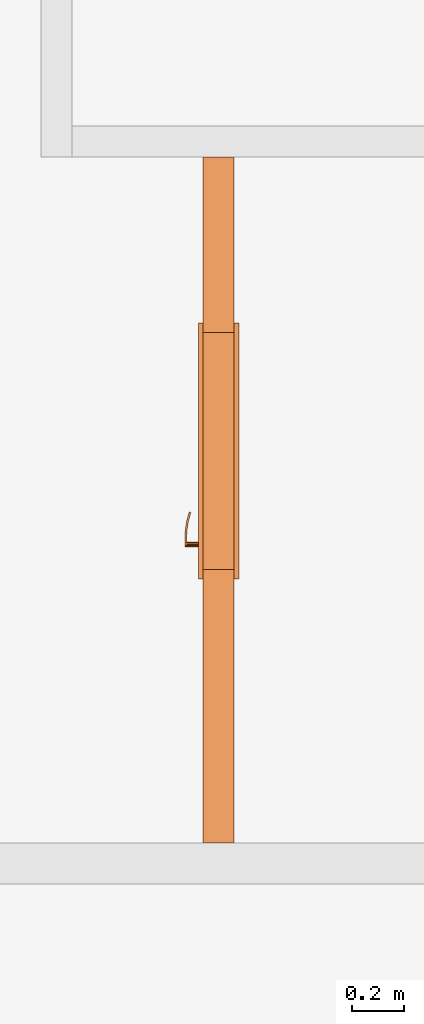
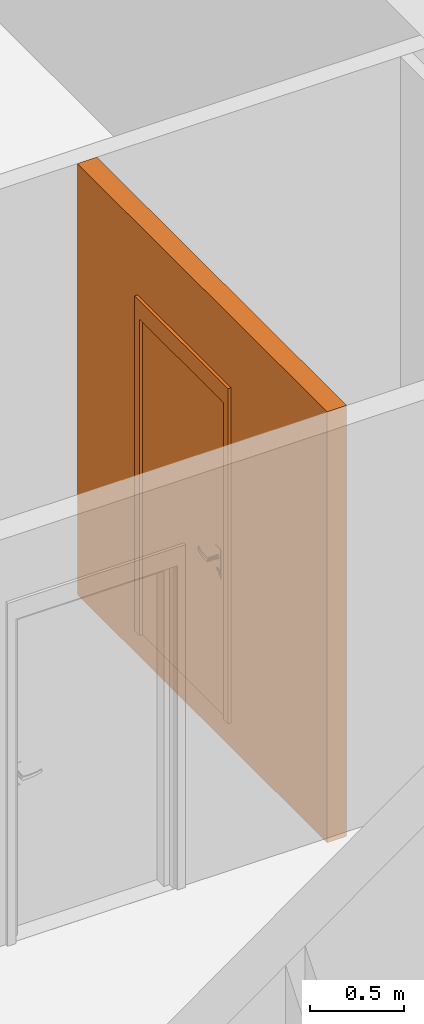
# One storey, part 16 of 61: 2 proxies, 1 opening.
"""IFC2X3 building model written with IfcOpenShell, lengths in millimetres."""

from ifc_helpers import new_model, entity, si_unit, converted_unit, derived_unit, money_unit, direction, frame, origin_with_axes, origin_2d_with_axis, place, context, subcontext, project, spatial, rectangle, extrude, open_shell, faceted_brep, surface_model, source, transform, mapped, material, type_object, element, fill, save


model = new_model("IFC2X3")

# Units and contexts
model_context = context("Model", 3, precision=0.01, world=origin_with_axes(), true_north=direction((0.34421633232, 0.938890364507)))
body_context = subcontext(model_context, "Body", "Model", "MODEL_VIEW")
ifc_project = project(units=[si_unit("LENGTHUNIT", "METRE", prefix="MILLI"), si_unit("AREAUNIT", "SQUARE_METRE"), si_unit("VOLUMEUNIT", "CUBIC_METRE"), converted_unit("PLANEANGLEUNIT", "DEGREE", entity("IfcPlaneAngleMeasure", 0.0174532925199), si_unit("PLANEANGLEUNIT", "RADIAN"), dimensions=[0, 0, 0, 0, 0, 0, 0]), si_unit("SOLIDANGLEUNIT", "STERADIAN"), money_unit("USD"), converted_unit("TIMEUNIT", "Year", entity("IfcTimeMeasure", 31556926.0), si_unit("TIMEUNIT", "SECOND"), dimensions=[0, 0, 1, 0, 0, 0, 0]), si_unit("MASSUNIT", "GRAM", prefix="KILO"), si_unit("THERMODYNAMICTEMPERATUREUNIT", "DEGREE_CELSIUS"), si_unit("LUMINOUSINTENSITYUNIT", "LUMEN"), si_unit("ENERGYUNIT", "JOULE", prefix="MEGA"), derived_unit("THERMALCONDUCTANCEUNIT", [(si_unit("POWERUNIT", "WATT"), 1), (si_unit("LENGTHUNIT", "METRE"), -1), (si_unit("THERMODYNAMICTEMPERATUREUNIT", "KELVIN"), -1)]), derived_unit("SPECIFICHEATCAPACITYUNIT", [(si_unit("ENERGYUNIT", "JOULE"), 1), (si_unit("MASSUNIT", "GRAM", prefix="KILO"), -1), (si_unit("THERMODYNAMICTEMPERATUREUNIT", "KELVIN"), -1)]), derived_unit("MASSDENSITYUNIT", [(si_unit("MASSUNIT", "GRAM", prefix="KILO"), 1), (si_unit("VOLUMEUNIT", "CUBIC_METRE"), -1)])], contexts=[model_context])

# Site, building, storey
site_placement = place(None, origin_with_axes())
site = spatial("IfcSite", under=ifc_project, at=site_placement, Name="USTRONIE MORSKIE", CompositionType="ELEMENT")
building_placement = place(site_placement, origin_with_axes())
building = spatial("IfcBuilding", under=site, at=building_placement, Name="Budynek", CompositionType="ELEMENT")
storey_placement = place(building_placement, frame((0.0, 0.0, 13000.0), z_axis=(0.0, 0.0, 1.0), x_axis=(1.0, 0.0, 0.0)))
storey = spatial("IfcBuildingStorey", under=building, at=storey_placement, Name="PIĘTRO 4", CompositionType="ELEMENT", Elevation=13000.0)

# Proxies, opening
ifc_material = material(Name="Bloczki silikatowe")
building_element_proxy_type_1 = type_object("IfcBuildingElementProxyType", Name="Bloczki silikatowe 120", PredefinedType="NOTDEFINED")
proxy_1_placement = place(storey_placement, frame((371097.920919, 739651.199937, -160.0), z_axis=(0.0, 0.0, 1.0), x_axis=(0.0, -1.0, 0.0)))
proxy_1 = element("IfcBuildingElementProxy", 1, at=proxy_1_placement, inside=storey, type_object=building_element_proxy_type_1, material=ifc_material, Name="SW-04", context=body_context, shape_type="Brep", body=[
    faceted_brep([(2720.00090117, -60.0, 2800.0), (2720.00090117, 60.0, 2800.0), (59.9999999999, 60.0, 2800.0), (59.9999999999, -60.0, 2800.0), (2720.00090117, -60.0, 0.0), (2720.00090117, 60.0, 0.0), (59.9999999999, 60.0, 0.0), (59.9999999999, -60.0, 0.0)], [[[0, 1, 2, 3]], [[1, 0, 4, 5]], [[1, 5, 6, 2]], [[7, 3, 2, 6]], [[4, 0, 3, 7]], [[5, 4, 7, 6]]]),
])
opening_placement = place(proxy_1_placement, frame((1200.00090117, 0.0, 160.0), z_axis=(0.0, 0.0, 1.0), x_axis=(1.0, 0.0, 0.0)))
opening = element("IfcOpeningElement", 2, at=opening_placement, cuts=proxy_1, Name="Dw.4", context=body_context, shape_type="SweptSolid", body=[
    extrude(rectangle(XDim=920.0, YDim=2070.0, at=origin_2d_with_axis()), frame((0.0, 120.0, 1035.0), z_axis=(0.0, -1.0, 0.0), x_axis=(-1.0, 0.0, 0.0)), (0.0, 0.0, 1.0), 360.0),
    extrude(rectangle(XDim=994.0, YDim=2177.0, at=origin_2d_with_axis()), frame((0.0, 60.0, 1088.5), z_axis=(0.0, -1.0, 0.0), x_axis=(-1.0, 0.0, 0.0)), (0.0, 0.0, -1.0), 120.0),
    extrude(rectangle(XDim=994.0, YDim=2177.0, at=origin_2d_with_axis()), frame((0.0, -60.0, 1088.5), z_axis=(0.0, 1.0, 0.0), x_axis=(-1.0, 0.0, 0.0)), (0.0, 0.0, -1.0), 120.0),
])
building_element_proxy_type_2 = type_object("IfcBuildingElementProxyType", Name="Drzwi 23", PredefinedType="NOTDEFINED")
shared_shape = source(origin_with_axes(), body_context, "Body", "SurfaceModel", [
    faceted_brep([(-460.0, -115.0, 0.0), (-435.0, -115.0, 0.0), (-435.0, -120.0, 0.0), (-460.0, -120.0, 0.0), (-460.0, -115.0, 2070.0), (-435.0, -115.0, 2045.0), (-435.0, -120.0, 2045.0), (-460.0, -120.0, 2070.0)], [[[0, 1, 2, 3]], [[0, 4, 5, 1]], [[1, 5, 6, 2]], [[3, 2, 6, 7]], [[4, 0, 3, 7]], [[5, 4, 7, 6]]]),
    faceted_brep([(460.0, -115.0, 2070.0), (435.0, -115.0, 2045.0), (435.0, -120.0, 2045.0), (460.0, -120.0, 2070.0), (460.0, -115.0, 0.0), (435.0, -115.0, 0.0), (435.0, -120.0, 0.0), (460.0, -120.0, 0.0)], [[[0, 1, 2, 3]], [[0, 4, 5, 1]], [[1, 5, 6, 2]], [[3, 2, 6, 7]], [[4, 0, 3, 7]], [[5, 4, 7, 6]]]),
    faceted_brep([(-435.0, -115.0, 2045.0), (435.0, -115.0, 2045.0), (435.0, -120.0, 2045.0), (-435.0, -120.0, 2045.0), (-460.0, -115.0, 2070.0), (460.0, -115.0, 2070.0), (460.0, -120.0, 2070.0), (-460.0, -120.0, 2070.0)], [[[0, 1, 2, 3]], [[0, 4, 5, 1]], [[1, 5, 6, 2]], [[3, 2, 6, 7]], [[4, 0, 3, 7]], [[5, 4, 7, 6]]]),
    faceted_brep([(-497.0, -139.0, 0.0), (-497.0, -120.0, 0.0), (-447.0, -120.0, 0.0), (-447.0, -139.0, 0.0), (-497.0, -139.0, 2177.0), (-497.0, -120.0, 2177.0), (-447.0, -120.0, 2057.0), (-447.0, -139.0, 2057.0)], [[[0, 1, 2, 3]], [[4, 5, 1, 0]], [[1, 5, 6, 2]], [[3, 2, 6, 7]], [[0, 3, 7, 4]], [[7, 6, 5, 4]]]),
    faceted_brep([(497.0, -139.0, 2177.0), (497.0, -120.0, 2177.0), (447.0, -120.0, 2057.0), (447.0, -139.0, 2057.0), (497.0, -139.0, 0.0), (497.0, -120.0, 0.0), (447.0, -120.0, 0.0), (447.0, -139.0, 0.0)], [[[0, 1, 2, 3]], [[4, 5, 1, 0]], [[1, 5, 6, 2]], [[3, 2, 6, 7]], [[0, 3, 7, 4]], [[7, 6, 5, 4]]]),
    faceted_brep([(-497.0, -139.0, 2177.0), (-497.0, -120.0, 2177.0), (-447.0, -120.0, 2057.0), (-447.0, -139.0, 2057.0), (497.0, -139.0, 2177.0), (497.0, -120.0, 2177.0), (447.0, -120.0, 2057.0), (447.0, -139.0, 2057.0)], [[[0, 1, 2, 3]], [[4, 5, 1, 0]], [[1, 5, 6, 2]], [[3, 2, 6, 7]], [[0, 3, 7, 4]], [[7, 6, 5, 4]]]),
    faceted_brep([(-497.0, 19.0, 0.0), (-447.0, 19.0, 0.0), (-447.0, 0.0, 0.0), (-497.0, 0.0, 0.0), (-497.0, 19.0, 2177.0), (-447.0, 19.0, 2057.0), (-447.0, 0.0, 2057.0), (-497.0, 0.0, 2177.0)], [[[0, 1, 2, 3]], [[0, 4, 5, 1]], [[1, 5, 6, 2]], [[3, 2, 6, 7]], [[4, 0, 3, 7]], [[5, 4, 7, 6]]]),
    faceted_brep([(497.0, 19.0, 2177.0), (447.0, 19.0, 2057.0), (447.0, 0.0, 2057.0), (497.0, 0.0, 2177.0), (497.0, 19.0, 0.0), (447.0, 19.0, 0.0), (447.0, 0.0, 0.0), (497.0, 0.0, 0.0)], [[[0, 1, 2, 3]], [[0, 4, 5, 1]], [[1, 5, 6, 2]], [[3, 2, 6, 7]], [[4, 0, 3, 7]], [[5, 4, 7, 6]]]),
    faceted_brep([(-497.0, 19.0, 2177.0), (-447.0, 19.0, 2057.0), (-447.0, 0.0, 2057.0), (-497.0, 0.0, 2177.0), (497.0, 19.0, 2177.0), (447.0, 19.0, 2057.0), (447.0, 0.0, 2057.0), (497.0, 0.0, 2177.0)], [[[0, 1, 2, 3]], [[0, 4, 5, 1]], [[1, 5, 6, 2]], [[3, 2, 6, 7]], [[4, 0, 3, 7]], [[5, 4, 7, 6]]]),
    faceted_brep([(-400.0, -40.0, 0.0), (-400.0, -40.0, 2000.0), (-400.0, -115.0, 2000.0), (-400.0, -115.0, 0.0), (-412.0, -40.0, 2000.0), (-412.0, -40.0, 0.0), (-412.0, 0.0, 2000.0), (-460.0, 0.0, 2000.0), (-460.0, -115.0, 2000.0), (-460.0, -115.0, 0.0), (-460.0, 0.0, 0.0), (-412.0, 0.0, 0.0)], [[[0, 1, 2, 3]], [[4, 1, 0, 5]], [[4, 6, 7, 8, 2, 1]], [[3, 2, 8, 9]], [[5, 0, 3, 9, 10, 11]], [[6, 4, 5, 11]], [[6, 11, 10, 7]], [[10, 9, 8, 7]]]),
    faceted_brep([(412.0, -40.0, 2000.0), (400.0, -40.0, 2000.0), (400.0, -115.0, 2000.0), (460.0, -115.0, 2000.0), (460.0, 0.0, 2000.0), (412.0, 0.0, 2000.0), (412.0, -40.0, 0.0), (400.0, -40.0, 0.0), (400.0, -115.0, 0.0), (460.0, -115.0, 0.0), (460.0, 0.0, 0.0), (412.0, 0.0, 0.0)], [[[0, 1, 2, 3, 4, 5]], [[1, 0, 6, 7]], [[1, 7, 8, 2]], [[3, 2, 8, 9]], [[4, 3, 9, 10]], [[11, 5, 4, 10]], [[0, 5, 11, 6]], [[6, 11, 10, 9, 8, 7]]]),
    faceted_brep([(-412.0, 0.0, 2012.0), (-412.0, 0.0, 2000.0), (-460.0, 0.0, 2000.0), (-460.0, 0.0, 2070.0), (460.0, 0.0, 2070.0), (460.0, 0.0, 2000.0), (412.0, 0.0, 2000.0), (412.0, 0.0, 2012.0), (-412.0, -40.0, 2012.0), (-412.0, -40.0, 2000.0), (-400.0, -40.0, 2000.0), (-400.0, -115.0, 2000.0), (-460.0, -115.0, 2000.0), (-460.0, -115.0, 2070.0), (460.0, -115.0, 2070.0), (460.0, -115.0, 2000.0), (412.0, -40.0, 2000.0), (400.0, -115.0, 2000.0), (400.0, -40.0, 2000.0), (412.0, -40.0, 2012.0)], [[[0, 1, 2, 3, 4, 5, 6, 7]], [[1, 0, 8, 9]], [[9, 10, 11, 12, 2, 1]], [[2, 12, 13, 3]], [[3, 13, 14, 4]], [[4, 14, 15, 5]], [[16, 6, 5, 15, 17, 18]], [[7, 6, 16, 19]], [[0, 7, 19, 8]], [[16, 18, 10, 9, 8, 19]], [[10, 18, 17, 11]], [[17, 15, 14, 13, 12, 11]]]),
    faceted_brep([(-390.5, -40.0, 1060.0), (-390.5, -43.0, 1060.0), (-333.5, -43.0, 1060.0), (-333.5, -40.0, 1060.0), (-390.5, -40.0, 870.0), (-390.5, -43.0, 870.0), (-333.5, -43.0, 870.0), (-333.5, -40.0, 870.0)], [[[0, 1, 2, 3]], [[4, 5, 1, 0]], [[1, 5, 6, 2]], [[3, 2, 6, 7]], [[0, 3, 7, 4]], [[7, 6, 5, 4]]]),
    faceted_brep([(-362.0, -104.0, 990.0), (-362.0, -111.0, 990.0), (-367.0, -111.0, 991.339745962), (-367.0, -104.0, 991.339745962), (-337.0, -104.0, 990.0), (-337.0, -111.0, 990.0), (-337.0, -111.0, 1010.0), (-362.0, -111.0, 1010.0), (-367.0, -111.0, 1008.66025404), (-370.660254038, -111.0, 1005.0), (-372.0, -111.0, 1000.0), (-370.660254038, -111.0, 995.0), (-370.660254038, -104.0, 995.0), (-372.0, -104.0, 1000.0), (-370.660254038, -104.0, 1005.0), (-367.0, -104.0, 1008.66025404), (-362.0, -104.0, 1010.0), (-337.0, -104.0, 1010.0)], [[[0, 1, 2, 3]], [[4, 5, 1, 0]], [[1, 5, 6, 7, 8, 9, 10, 11, 2]], [[3, 2, 11, 12]], [[0, 3, 12, 13, 14, 15, 16, 17, 4]], [[17, 6, 5, 4]], [[16, 7, 6, 17]], [[15, 8, 7, 16]], [[14, 9, 8, 15]], [[13, 10, 9, 14]], [[12, 11, 10, 13]]]),
    surface_model("IfcShellBasedSurfaceModel", [(-337.0, -104.0, 1010.0), (-323.596090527, -111.0, 1009.60730092), (-323.901717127, -104.0, 1009.60730092), (-337.0, -111.0, 1010.0), (-296.890283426, -108.663544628, 1008.82190275), (-323.901717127, -104.0, 990.392699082), (-337.0, -104.0, 990.0), (-337.0, -111.0, 990.0), (-323.596090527, -111.0, 990.392699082), (-296.890283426, -108.663544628, 991.178097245), (-297.804837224, -101.716818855, 1008.82190275), (-297.804837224, -101.716818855, 991.178097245), (-270.489735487, -104.008415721, 991.963495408), (-270.489735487, -104.008415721, 1008.03650459), (-272.006256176, -97.1678329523, 1008.03650459), (-272.006256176, -97.1678329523, 991.963495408), (-244.59537082, -97.0700416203, 992.748893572), (-244.59537082, -97.0700416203, 1007.25110643), (-246.702316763, -90.3876628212, 1007.25110643), (-246.702316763, -90.3876628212, 992.748893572), (-236.538795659, -94.1376880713, 993.0), (-236.538795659, -94.1376880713, 1007.0), (-238.829442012, -87.5221707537, 1007.0), (-238.829442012, -87.5221707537, 993.0)], [open_shell([[[0, 1, 2]], [[0, 3, 1]], [[2, 1, 4]], [[0, 2, 5, 6]], [[3, 7, 8, 1]], [[1, 8, 9, 4]], [[2, 4, 10]], [[2, 10, 11, 5]], [[5, 7, 6]], [[5, 8, 7]], [[11, 9, 8]], [[4, 9, 12, 13]], [[10, 4, 13]], [[10, 14, 15, 11]], [[11, 8, 5]], [[15, 9, 11]], [[15, 12, 9]], [[13, 12, 16, 17]], [[10, 13, 14]], [[14, 18, 19, 15]], [[19, 12, 15]], [[19, 16, 12]], [[17, 16, 20, 21]], [[14, 13, 17]], [[14, 17, 18]], [[18, 22, 23, 19]], [[23, 16, 19]], [[23, 20, 16]], [[22, 21, 20, 23]], [[18, 17, 21]], [[18, 21, 22]]])]),
    faceted_brep([(-351.607695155, -53.0, 994.0), (-350.741669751, -43.0, 993.5), (-349.0, -43.0, 1000.0), (-350.0, -53.0, 1000.0), (-356.0, -53.0, 989.607695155), (-355.5, -43.0, 988.741669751), (-362.0, -43.0, 987.0), (-368.5, -43.0, 988.741669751), (-373.258330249, -43.0, 993.5), (-375.0, -43.0, 1000.0), (-373.258330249, -43.0, 1006.5), (-368.5, -43.0, 1011.25833025), (-362.0, -43.0, 1013.0), (-355.5, -43.0, 1011.25833025), (-350.741669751, -43.0, 1006.5), (-351.607695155, -53.0, 1006.0), (-356.0, -53.0, 1010.39230485), (-362.0, -53.0, 1012.0), (-368.0, -53.0, 1010.39230485), (-372.392304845, -53.0, 1006.0), (-374.0, -53.0, 1000.0), (-372.392304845, -53.0, 994.0), (-368.0, -53.0, 989.607695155), (-362.0, -53.0, 988.0)], [[[0, 1, 2, 3]], [[4, 5, 1, 0]], [[2, 1, 5, 6, 7, 8, 9, 10, 11, 12, 13, 14]], [[3, 2, 14, 15]], [[3, 15, 16, 17, 18, 19, 20, 21, 22, 23, 4, 0]], [[23, 6, 5, 4]], [[22, 7, 6, 23]], [[21, 8, 7, 22]], [[20, 9, 8, 21]], [[19, 10, 9, 20]], [[18, 11, 10, 19]], [[17, 12, 11, 18]], [[16, 13, 12, 17]], [[15, 14, 13, 16]]]),
    faceted_brep([(-344.679491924, -47.0, 895.0), (-342.947441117, -43.0, 894.0), (-340.0, -43.0, 905.0), (-342.0, -47.0, 905.0), (-352.0, -47.0, 887.679491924), (-351.0, -43.0, 885.947441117), (-362.0, -43.0, 883.0), (-373.0, -43.0, 885.947441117), (-381.052558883, -43.0, 894.0), (-384.0, -43.0, 905.0), (-381.052558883, -43.0, 916.0), (-373.0, -43.0, 924.052558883), (-362.0, -43.0, 927.0), (-351.0, -43.0, 924.052558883), (-342.947441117, -43.0, 916.0), (-344.679491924, -47.0, 915.0), (-352.0, -47.0, 922.320508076), (-362.0, -47.0, 925.0), (-372.0, -47.0, 922.320508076), (-379.320508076, -47.0, 915.0), (-382.0, -47.0, 905.0), (-379.320508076, -47.0, 895.0), (-372.0, -47.0, 887.679491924), (-362.0, -47.0, 885.0)], [[[0, 1, 2, 3]], [[4, 5, 1, 0]], [[2, 1, 5, 6, 7, 8, 9, 10, 11, 12, 13, 14]], [[3, 2, 14, 15]], [[3, 15, 16, 17, 18, 19, 20, 21, 22, 23, 4, 0]], [[23, 6, 5, 4]], [[22, 7, 6, 23]], [[21, 8, 7, 22]], [[20, 9, 8, 21]], [[19, 10, 9, 20]], [[18, 11, 10, 19]], [[17, 12, 11, 18]], [[16, 13, 12, 17]], [[15, 14, 13, 16]]]),
    faceted_brep([(-357.050252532, -49.0, 909.050252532), (-356.343145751, -47.0, 908.343145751), (-354.0, -47.0, 914.0), (-355.0, -49.0, 914.0), (-362.0, -49.0, 907.0), (-362.0, -47.0, 906.0), (-367.656854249, -47.0, 908.343145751), (-370.0, -47.0, 914.0), (-367.656854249, -47.0, 919.656854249), (-362.0, -47.0, 922.0), (-356.343145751, -47.0, 919.656854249), (-357.050252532, -49.0, 918.949747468), (-362.0, -49.0, 921.0), (-366.949747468, -49.0, 918.949747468), (-369.0, -49.0, 914.0), (-366.949747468, -49.0, 909.050252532)], [[[0, 1, 2, 3]], [[4, 5, 1, 0]], [[2, 1, 5, 6, 7, 8, 9, 10]], [[3, 2, 10, 11]], [[3, 11, 12, 13, 14, 15, 4, 0]], [[15, 6, 5, 4]], [[14, 7, 6, 15]], [[13, 8, 7, 14]], [[12, 9, 8, 13]], [[11, 10, 9, 12]]]),
    faceted_brep([(-362.0, -53.0, 1010.0), (-362.0, -104.0, 1010.0), (-357.0, -104.0, 1008.66025404), (-357.0, -53.0, 1008.66025404), (-367.0, -53.0, 1008.66025404), (-367.0, -104.0, 1008.66025404), (-370.660254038, -104.0, 1005.0), (-372.0, -104.0, 1000.0), (-370.660254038, -104.0, 995.0), (-367.0, -104.0, 991.339745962), (-362.0, -104.0, 990.0), (-357.0, -104.0, 991.339745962), (-353.339745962, -104.0, 995.0), (-352.0, -104.0, 1000.0), (-353.339745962, -104.0, 1005.0), (-353.339745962, -53.0, 1005.0), (-352.0, -53.0, 1000.0), (-353.339745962, -53.0, 995.0), (-357.0, -53.0, 991.339745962), (-362.0, -53.0, 990.0), (-367.0, -53.0, 991.339745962), (-370.660254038, -53.0, 995.0), (-372.0, -53.0, 1000.0), (-370.660254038, -53.0, 1005.0)], [[[0, 1, 2, 3]], [[4, 5, 1, 0]], [[1, 5, 6, 7, 8, 9, 10, 11, 12, 13, 14, 2]], [[3, 2, 14, 15]], [[0, 3, 15, 16, 17, 18, 19, 20, 21, 22, 23, 4]], [[23, 6, 5, 4]], [[22, 7, 6, 23]], [[21, 8, 7, 22]], [[20, 9, 8, 21]], [[19, 10, 9, 20]], [[18, 11, 10, 19]], [[17, 12, 11, 18]], [[16, 13, 12, 17]], [[15, 14, 13, 16]]]),
    faceted_brep([(-390.5, 0.0, 1060.0), (-333.5, 0.0, 1060.0), (-333.5, 3.0, 1060.0), (-390.5, 3.0, 1060.0), (-390.5, 0.0, 870.0), (-333.5, 0.0, 870.0), (-333.5, 3.0, 870.0), (-390.5, 3.0, 870.0)], [[[0, 1, 2, 3]], [[0, 4, 5, 1]], [[1, 5, 6, 2]], [[3, 2, 6, 7]], [[4, 0, 3, 7]], [[5, 4, 7, 6]]]),
    faceted_brep([(-362.0, 64.0, 990.0), (-367.0, 64.0, 991.339745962), (-367.0, 71.0, 991.339745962), (-362.0, 71.0, 990.0), (-337.0, 64.0, 990.0), (-337.0, 64.0, 1010.0), (-362.0, 64.0, 1010.0), (-367.0, 64.0, 1008.66025404), (-370.660254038, 64.0, 1005.0), (-372.0, 64.0, 1000.0), (-370.660254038, 64.0, 995.0), (-370.660254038, 71.0, 995.0), (-372.0, 71.0, 1000.0), (-370.660254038, 71.0, 1005.0), (-367.0, 71.0, 1008.66025404), (-362.0, 71.0, 1010.0), (-337.0, 71.0, 1010.0), (-337.0, 71.0, 990.0)], [[[0, 1, 2, 3]], [[0, 4, 5, 6, 7, 8, 9, 10, 1]], [[1, 10, 11, 2]], [[3, 2, 11, 12, 13, 14, 15, 16, 17]], [[4, 0, 3, 17]], [[5, 4, 17, 16]], [[6, 5, 16, 15]], [[7, 6, 15, 14]], [[8, 7, 14, 13]], [[9, 8, 13, 12]], [[10, 9, 12, 11]]]),
    surface_model("IfcShellBasedSurfaceModel", [(-337.0, 64.0, 1010.0), (-323.901717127, 64.0, 1009.60730092), (-323.596090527, 71.0, 1009.60730092), (-337.0, 64.0, 990.0), (-323.901717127, 64.0, 990.392699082), (-296.890283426, 68.6635446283, 1008.82190275), (-337.0, 71.0, 1010.0), (-337.0, 71.0, 990.0), (-297.804837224, 61.716818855, 991.178097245), (-297.804837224, 61.716818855, 1008.82190275), (-296.890283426, 68.6635446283, 991.178097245), (-323.596090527, 71.0, 990.392699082), (-272.006256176, 57.1678329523, 991.963495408), (-272.006256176, 57.1678329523, 1008.03650459), (-270.489735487, 64.0084157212, 1008.03650459), (-270.489735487, 64.0084157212, 991.963495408), (-246.702316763, 50.3876628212, 992.748893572), (-246.702316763, 50.3876628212, 1007.25110643), (-244.59537082, 57.0700416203, 1007.25110643), (-244.59537082, 57.0700416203, 992.748893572), (-238.829442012, 47.5221707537, 993.0), (-238.829442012, 47.5221707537, 1007.0), (-236.538795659, 54.1376880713, 1007.0), (-236.538795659, 54.1376880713, 993.0)], [open_shell([[[0, 1, 2]], [[0, 3, 4, 1]], [[1, 5, 2]], [[0, 2, 6]], [[4, 3, 7]], [[1, 4, 8, 9]], [[1, 9, 5]], [[2, 5, 10, 11]], [[6, 2, 11, 7]], [[4, 7, 11]], [[8, 4, 11]], [[9, 8, 12, 13]], [[9, 14, 5]], [[5, 14, 15, 10]], [[8, 11, 10]], [[12, 8, 10]], [[13, 12, 16, 17]], [[9, 13, 14]], [[14, 18, 19, 15]], [[12, 10, 15]], [[16, 12, 15]], [[17, 16, 20, 21]], [[13, 17, 18]], [[13, 18, 14]], [[18, 22, 23, 19]], [[16, 15, 19]], [[20, 16, 19]], [[21, 20, 23, 22]], [[17, 21, 22]], [[17, 22, 18]], [[20, 19, 23]]])]),
    faceted_brep([(-351.607695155, 13.0, 994.0), (-350.0, 13.0, 1000.0), (-349.0, 3.0, 1000.0), (-350.741669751, 3.0, 993.5), (-356.0, 13.0, 989.607695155), (-362.0, 13.0, 988.0), (-368.0, 13.0, 989.607695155), (-372.392304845, 13.0, 994.0), (-374.0, 13.0, 1000.0), (-372.392304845, 13.0, 1006.0), (-368.0, 13.0, 1010.39230485), (-362.0, 13.0, 1012.0), (-356.0, 13.0, 1010.39230485), (-351.607695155, 13.0, 1006.0), (-350.741669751, 3.0, 1006.5), (-355.5, 3.0, 1011.25833025), (-362.0, 3.0, 1013.0), (-368.5, 3.0, 1011.25833025), (-373.258330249, 3.0, 1006.5), (-375.0, 3.0, 1000.0), (-373.258330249, 3.0, 993.5), (-368.5, 3.0, 988.741669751), (-362.0, 3.0, 987.0), (-355.5, 3.0, 988.741669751)], [[[0, 1, 2, 3]], [[1, 0, 4, 5, 6, 7, 8, 9, 10, 11, 12, 13]], [[1, 13, 14, 2]], [[2, 14, 15, 16, 17, 18, 19, 20, 21, 22, 23, 3]], [[4, 0, 3, 23]], [[5, 4, 23, 22]], [[6, 5, 22, 21]], [[7, 6, 21, 20]], [[8, 7, 20, 19]], [[9, 8, 19, 18]], [[10, 9, 18, 17]], [[11, 10, 17, 16]], [[12, 11, 16, 15]], [[13, 12, 15, 14]]]),
    faceted_brep([(-344.679491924, 7.0, 895.0), (-342.0, 7.0, 905.0), (-340.0, 3.0, 905.0), (-342.947441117, 3.0, 894.0), (-352.0, 7.0, 887.679491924), (-362.0, 7.0, 885.0), (-372.0, 7.0, 887.679491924), (-379.320508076, 7.0, 895.0), (-382.0, 7.0, 905.0), (-379.320508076, 7.0, 915.0), (-372.0, 7.0, 922.320508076), (-362.0, 7.0, 925.0), (-352.0, 7.0, 922.320508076), (-344.679491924, 7.0, 915.0), (-342.947441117, 3.0, 916.0), (-351.0, 3.0, 924.052558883), (-362.0, 3.0, 927.0), (-373.0, 3.0, 924.052558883), (-381.052558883, 3.0, 916.0), (-384.0, 3.0, 905.0), (-381.052558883, 3.0, 894.0), (-373.0, 3.0, 885.947441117), (-362.0, 3.0, 883.0), (-351.0, 3.0, 885.947441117)], [[[0, 1, 2, 3]], [[1, 0, 4, 5, 6, 7, 8, 9, 10, 11, 12, 13]], [[1, 13, 14, 2]], [[2, 14, 15, 16, 17, 18, 19, 20, 21, 22, 23, 3]], [[4, 0, 3, 23]], [[5, 4, 23, 22]], [[6, 5, 22, 21]], [[7, 6, 21, 20]], [[8, 7, 20, 19]], [[9, 8, 19, 18]], [[10, 9, 18, 17]], [[11, 10, 17, 16]], [[12, 11, 16, 15]], [[13, 12, 15, 14]]]),
    faceted_brep([(-357.050252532, 9.0, 909.050252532), (-355.0, 9.0, 914.0), (-354.0, 7.0, 914.0), (-356.343145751, 7.0, 908.343145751), (-362.0, 9.0, 907.0), (-366.949747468, 9.0, 909.050252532), (-369.0, 9.0, 914.0), (-366.949747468, 9.0, 918.949747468), (-362.0, 9.0, 921.0), (-357.050252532, 9.0, 918.949747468), (-356.343145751, 7.0, 919.656854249), (-362.0, 7.0, 922.0), (-367.656854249, 7.0, 919.656854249), (-370.0, 7.0, 914.0), (-367.656854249, 7.0, 908.343145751), (-362.0, 7.0, 906.0)], [[[0, 1, 2, 3]], [[1, 0, 4, 5, 6, 7, 8, 9]], [[1, 9, 10, 2]], [[2, 10, 11, 12, 13, 14, 15, 3]], [[4, 0, 3, 15]], [[5, 4, 15, 14]], [[6, 5, 14, 13]], [[7, 6, 13, 12]], [[8, 7, 12, 11]], [[9, 8, 11, 10]]]),
    faceted_brep([(-362.0, 13.0, 1010.0), (-357.0, 13.0, 1008.66025404), (-357.0, 64.0, 1008.66025404), (-362.0, 64.0, 1010.0), (-367.0, 13.0, 1008.66025404), (-370.660254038, 13.0, 1005.0), (-372.0, 13.0, 1000.0), (-370.660254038, 13.0, 995.0), (-367.0, 13.0, 991.339745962), (-362.0, 13.0, 990.0), (-357.0, 13.0, 991.339745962), (-353.339745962, 13.0, 995.0), (-352.0, 13.0, 1000.0), (-353.339745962, 13.0, 1005.0), (-353.339745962, 64.0, 1005.0), (-352.0, 64.0, 1000.0), (-353.339745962, 64.0, 995.0), (-357.0, 64.0, 991.339745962), (-362.0, 64.0, 990.0), (-367.0, 64.0, 991.339745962), (-370.660254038, 64.0, 995.0), (-372.0, 64.0, 1000.0), (-370.660254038, 64.0, 1005.0), (-367.0, 64.0, 1008.66025404)], [[[0, 1, 2, 3]], [[0, 4, 5, 6, 7, 8, 9, 10, 11, 12, 13, 1]], [[1, 13, 14, 2]], [[3, 2, 14, 15, 16, 17, 18, 19, 20, 21, 22, 23]], [[4, 0, 3, 23]], [[5, 4, 23, 22]], [[6, 5, 22, 21]], [[7, 6, 21, 20]], [[8, 7, 20, 19]], [[9, 8, 19, 18]], [[10, 9, 18, 17]], [[11, 10, 17, 16]], [[12, 11, 16, 15]], [[13, 12, 15, 14]]]),
    faceted_brep([(412.0, 0.0, 0.0), (412.0, -40.0, 0.0), (-412.0, -40.0, 0.0), (-412.0, 0.0, 0.0), (412.0, 0.0, 2012.0), (412.0, -40.0, 2012.0), (-412.0, -40.0, 2012.0), (-412.0, 0.0, 2012.0)], [[[0, 1, 2, 3]], [[4, 5, 1, 0]], [[1, 5, 6, 2]], [[3, 2, 6, 7]], [[0, 3, 7, 4]], [[7, 6, 5, 4]]]),
])
proxy_2_placement = place(opening_placement, frame((400.0, 0.0, 0.0), z_axis=(0.0, 0.0, 1.0), x_axis=(-1.0, 0.0, 0.0)))
proxy_2 = element("IfcBuildingElementProxy", 3, at=proxy_2_placement, inside=storey, type_object=building_element_proxy_type_2, Name="Dw.4", context=body_context, shape_type="MappedRepresentation", body=[
    mapped(shared_shape, transform((400.0, 60.0, 0.0))),
])
fill(opening, proxy_2)

save(model, "model.ifc")
